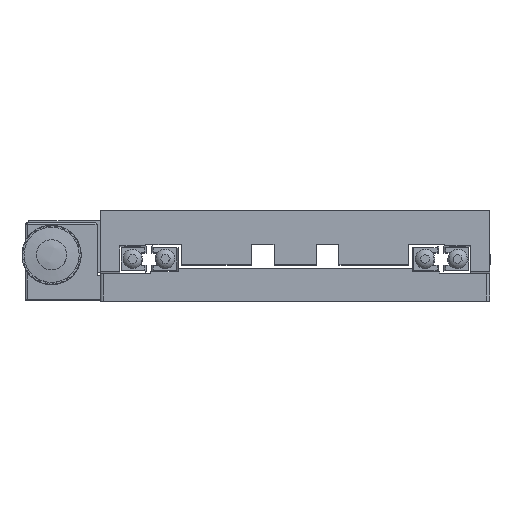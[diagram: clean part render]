
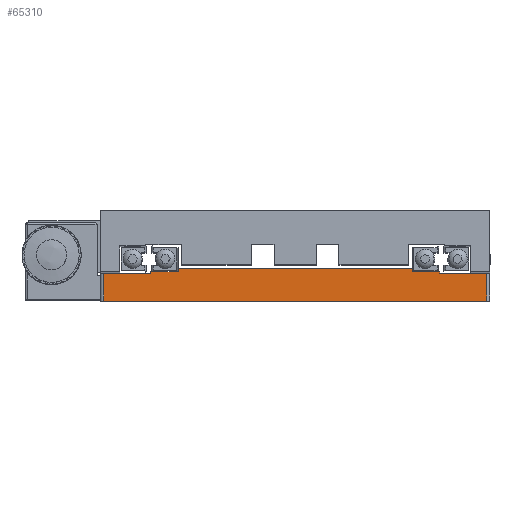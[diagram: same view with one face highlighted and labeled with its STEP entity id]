
A CAD part, top view. The second image highlights one B-rep face of the part: STEP entity #65310.
In plain terms, the highlighted planar face has unit normal (0, 0, 1).
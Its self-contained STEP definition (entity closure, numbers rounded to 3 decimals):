
#17243 = CARTESIAN_POINT ( 'NONE',  ( -80.395, -14.195, 60. ) ) ;
#30347 = EDGE_LOOP ( 'NONE', ( #36175, #36177, #36179, #36181, #36183, #36184, #36185, #36186, #36188, #36190, #36192, #36195 ) ) ;
#30775 = EDGE_CURVE ( 'NONE', #37334, #37345, #47419, .T. ) ;
#30791 = EDGE_CURVE ( 'NONE', #37334, #37348, #47476, .T. ) ;
#30796 = EDGE_CURVE ( 'NONE', #37345, #37340, #47497, .T. ) ;
#30802 = EDGE_CURVE ( 'NONE', #37340, #37319, #47523, .T. ) ;
#30810 = EDGE_CURVE ( 'NONE', #37319, #37246, #47534, .T. ) ;
#30817 = EDGE_CURVE ( 'NONE', #37162, #37320, #47569, .T. ) ;
#30820 = EDGE_CURVE ( 'NONE', #37320, #37245, #47580, .T. ) ;
#30826 = EDGE_CURVE ( 'NONE', #37245, #37248, #47576, .T. ) ;
#30856 = EDGE_CURVE ( 'NONE', #37363, #37349, #47625, .T. ) ;
#30858 = EDGE_CURVE ( 'NONE', #37248, #37349, #47680, .T. ) ;
#30873 = EDGE_CURVE ( 'NONE', #37162, #37246, #47705, .T. ) ;
#30900 = EDGE_CURVE ( 'NONE', #37348, #37363, #47778, .T. ) ;
#36175 = ORIENTED_EDGE ( 'NONE', *, *, #30900, .T. ) ;
#36177 = ORIENTED_EDGE ( 'NONE', *, *, #30856, .T. ) ;
#36179 = ORIENTED_EDGE ( 'NONE', *, *, #30858, .F. ) ;
#36181 = ORIENTED_EDGE ( 'NONE', *, *, #30826, .F. ) ;
#36183 = ORIENTED_EDGE ( 'NONE', *, *, #30820, .F. ) ;
#36184 = ORIENTED_EDGE ( 'NONE', *, *, #30817, .F. ) ;
#36185 = ORIENTED_EDGE ( 'NONE', *, *, #30873, .T. ) ;
#36186 = ORIENTED_EDGE ( 'NONE', *, *, #30810, .F. ) ;
#36188 = ORIENTED_EDGE ( 'NONE', *, *, #30802, .F. ) ;
#36190 = ORIENTED_EDGE ( 'NONE', *, *, #30796, .F. ) ;
#36192 = ORIENTED_EDGE ( 'NONE', *, *, #30775, .F. ) ;
#36195 = ORIENTED_EDGE ( 'NONE', *, *, #30791, .T. ) ;
#37162 = VERTEX_POINT ( 'NONE', #157143 ) ;
#37245 = VERTEX_POINT ( 'NONE', #157163 ) ;
#37246 = VERTEX_POINT ( 'NONE', #157153 ) ;
#37248 = VERTEX_POINT ( 'NONE', #157149 ) ;
#37319 = VERTEX_POINT ( 'NONE', #157177 ) ;
#37320 = VERTEX_POINT ( 'NONE', #157187 ) ;
#37334 = VERTEX_POINT ( 'NONE', #157195 ) ;
#37340 = VERTEX_POINT ( 'NONE', #157203 ) ;
#37345 = VERTEX_POINT ( 'NONE', #157209 ) ;
#37348 = VERTEX_POINT ( 'NONE', #17243 ) ;
#37349 = VERTEX_POINT ( 'NONE', #73211 ) ;
#37363 = VERTEX_POINT ( 'NONE', #73229 ) ;
#47419 = LINE ( 'NONE', #188109, #47445 ) ;
#47445 = VECTOR ( 'NONE', #188120, 1000. ) ;
#47476 = LINE ( 'NONE', #188174, #47489 ) ;
#47489 = VECTOR ( 'NONE', #188193, 1000. ) ;
#47497 = LINE ( 'NONE', #188206, #47504 ) ;
#47504 = VECTOR ( 'NONE', #188208, 1000. ) ;
#47523 = LINE ( 'NONE', #188219, #47530 ) ;
#47530 = VECTOR ( 'NONE', #188220, 1000. ) ;
#47534 = LINE ( 'NONE', #188233, #47554 ) ;
#47554 = VECTOR ( 'NONE', #188245, 1000. ) ;
#47569 = LINE ( 'NONE', #188267, #47573 ) ;
#47573 = VECTOR ( 'NONE', #188268, 1000. ) ;
#47576 = LINE ( 'NONE', #188295, #47599 ) ;
#47580 = LINE ( 'NONE', #188274, #47586 ) ;
#47586 = VECTOR ( 'NONE', #188275, 1000. ) ;
#47599 = VECTOR ( 'NONE', #188281, 1000. ) ;
#47625 = LINE ( 'NONE', #188383, #47682 ) ;
#47680 = LINE ( 'NONE', #188399, #47688 ) ;
#47682 = VECTOR ( 'NONE', #188398, 1000. ) ;
#47688 = VECTOR ( 'NONE', #188404, 1000. ) ;
#47705 = LINE ( 'NONE', #188441, #47726 ) ;
#47726 = VECTOR ( 'NONE', #188457, 1000. ) ;
#47778 = LINE ( 'NONE', #188553, #47787 ) ;
#47787 = VECTOR ( 'NONE', #188577, 1000. ) ;
#65310 = ADVANCED_FACE ( 'NONE', ( #160099 ), #138424, .F. ) ;
#73211 = CARTESIAN_POINT ( 'NONE',  ( 37.605, -5.695, 60. ) ) ;
#73229 = CARTESIAN_POINT ( 'NONE',  ( 37.605, -14.195, 60. ) ) ;
#138420 = CARTESIAN_POINT ( 'NONE',  ( -21.395, -9.195, 60. ) ) ;
#138424 = PLANE ( 'NONE',  #188638 ) ;
#138432 = DIRECTION ( 'NONE',  ( 0., 0., -1. ) ) ;
#138435 = DIRECTION ( 'NONE',  ( -1., 0., 0. ) ) ;
#157143 = CARTESIAN_POINT ( 'NONE',  ( 14.605, -4.195, 60. ) ) ;
#157149 = CARTESIAN_POINT ( 'NONE',  ( 23.105, -5.695, 60. ) ) ;
#157153 = CARTESIAN_POINT ( 'NONE',  ( -57.395, -4.195, 60. ) ) ;
#157163 = CARTESIAN_POINT ( 'NONE',  ( 23.105, -5.195, 60. ) ) ;
#157177 = CARTESIAN_POINT ( 'NONE',  ( -57.395, -5.195, 60. ) ) ;
#157187 = CARTESIAN_POINT ( 'NONE',  ( 14.605, -5.195, 60. ) ) ;
#157195 = CARTESIAN_POINT ( 'NONE',  ( -80.395, -5.695, 60. ) ) ;
#157203 = CARTESIAN_POINT ( 'NONE',  ( -65.895, -5.195, 60. ) ) ;
#157209 = CARTESIAN_POINT ( 'NONE',  ( -65.895, -5.695, 60. ) ) ;
#160099 = FACE_OUTER_BOUND ( 'NONE', #30347, .T. ) ;
#188109 = CARTESIAN_POINT ( 'NONE',  ( -81.395, -5.695, 60. ) ) ;
#188120 = DIRECTION ( 'NONE',  ( 1., 0., 0. ) ) ;
#188174 = CARTESIAN_POINT ( 'NONE',  ( -80.395, -9.195, 60. ) ) ;
#188193 = DIRECTION ( 'NONE',  ( 0., -1., 0. ) ) ;
#188206 = CARTESIAN_POINT ( 'NONE',  ( -65.895, -5.695, 60. ) ) ;
#188208 = DIRECTION ( 'NONE',  ( 0., 1., 0. ) ) ;
#188219 = CARTESIAN_POINT ( 'NONE',  ( -65.895, -5.195, 60. ) ) ;
#188220 = DIRECTION ( 'NONE',  ( 1., 0., 0. ) ) ;
#188233 = CARTESIAN_POINT ( 'NONE',  ( -57.395, -5.195, 60. ) ) ;
#188245 = DIRECTION ( 'NONE',  ( 0., 1., 0. ) ) ;
#188267 = CARTESIAN_POINT ( 'NONE',  ( 14.605, -5.195, 60. ) ) ;
#188268 = DIRECTION ( 'NONE',  ( 0., -1., 0. ) ) ;
#188274 = CARTESIAN_POINT ( 'NONE',  ( 23.105, -5.195, 60. ) ) ;
#188275 = DIRECTION ( 'NONE',  ( 1., 0., 0. ) ) ;
#188281 = DIRECTION ( 'NONE',  ( 0., -1., 0. ) ) ;
#188295 = CARTESIAN_POINT ( 'NONE',  ( 23.105, -5.695, 60. ) ) ;
#188383 = CARTESIAN_POINT ( 'NONE',  ( 37.605, -9.195, 60. ) ) ;
#188398 = DIRECTION ( 'NONE',  ( 0., 1., 0. ) ) ;
#188399 = CARTESIAN_POINT ( 'NONE',  ( 38.605, -5.695, 60. ) ) ;
#188404 = DIRECTION ( 'NONE',  ( 1., 0., 0. ) ) ;
#188441 = CARTESIAN_POINT ( 'NONE',  ( -81.395, -4.195, 60. ) ) ;
#188457 = DIRECTION ( 'NONE',  ( -1., 0., 0. ) ) ;
#188553 = CARTESIAN_POINT ( 'NONE',  ( -81.395, -14.195, 60. ) ) ;
#188577 = DIRECTION ( 'NONE',  ( 1., 0., 0. ) ) ;
#188638 = AXIS2_PLACEMENT_3D ( 'NONE', #138420, #138432, #138435 ) ;
